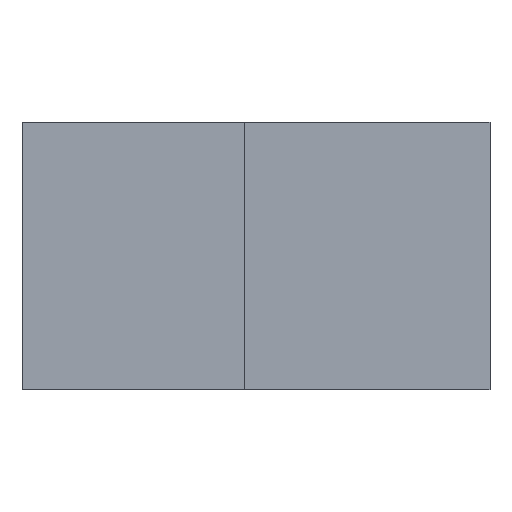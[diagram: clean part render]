
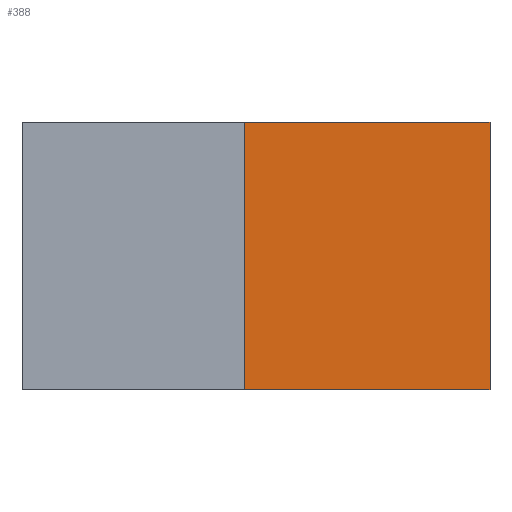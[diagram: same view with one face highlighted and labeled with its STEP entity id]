
A CAD part, left-side view. The second image highlights one B-rep face of the part: STEP entity #388.
In plain terms, the highlighted planar face has unit normal (-1, 0, 0).
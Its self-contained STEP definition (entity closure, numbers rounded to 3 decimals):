
#388 = ADVANCED_FACE('',(#389),#403,.F.);
#389 = FACE_BOUND('',#390,.F.);
#390 = EDGE_LOOP('',(#391,#426,#454,#482));
#391 = ORIENTED_EDGE('',*,*,#392,.F.);
#392 = EDGE_CURVE('',#393,#395,#397,.T.);
#393 = VERTEX_POINT('',#394);
#394 = CARTESIAN_POINT('',(-0.75,-0.82,0.));
#395 = VERTEX_POINT('',#396);
#396 = CARTESIAN_POINT('',(-0.75,-0.82,0.6));
#397 = SURFACE_CURVE('',#398,(#402,#414),.PCURVE_S1.);
#398 = LINE('',#399,#400);
#399 = CARTESIAN_POINT('',(-0.75,-0.82,0.));
#400 = VECTOR('',#401,1.);
#401 = DIRECTION('',(0.,0.,1.));
#402 = PCURVE('',#403,#408);
#403 = PLANE('',#404);
#404 = AXIS2_PLACEMENT_3D('',#405,#406,#407);
#405 = CARTESIAN_POINT('',(-0.75,-0.82,0.));
#406 = DIRECTION('',(1.,0.,0.));
#407 = DIRECTION('',(0.,0.,1.));
#408 = DEFINITIONAL_REPRESENTATION('',(#409),#413);
#409 = LINE('',#410,#411);
#410 = CARTESIAN_POINT('',(0.,0.));
#411 = VECTOR('',#412,1.);
#412 = DIRECTION('',(1.,0.));
#413 = ( GEOMETRIC_REPRESENTATION_CONTEXT(2)
PARAMETRIC_REPRESENTATION_CONTEXT() REPRESENTATION_CONTEXT('2D SPACE',''
  ) );
#414 = PCURVE('',#415,#420);
#415 = PLANE('',#416);
#416 = AXIS2_PLACEMENT_3D('',#417,#418,#419);
#417 = CARTESIAN_POINT('',(-0.75,-0.82,0.));
#418 = DIRECTION('',(0.,1.,0.));
#419 = DIRECTION('',(0.,0.,1.));
#420 = DEFINITIONAL_REPRESENTATION('',(#421),#425);
#421 = LINE('',#422,#423);
#422 = CARTESIAN_POINT('',(0.,0.));
#423 = VECTOR('',#424,1.);
#424 = DIRECTION('',(1.,0.));
#425 = ( GEOMETRIC_REPRESENTATION_CONTEXT(2)
PARAMETRIC_REPRESENTATION_CONTEXT() REPRESENTATION_CONTEXT('2D SPACE',''
  ) );
#426 = ORIENTED_EDGE('',*,*,#427,.T.);
#427 = EDGE_CURVE('',#393,#428,#430,.T.);
#428 = VERTEX_POINT('',#429);
#429 = CARTESIAN_POINT('',(-0.75,-0.27,0.));
#430 = SURFACE_CURVE('',#431,(#435,#442),.PCURVE_S1.);
#431 = LINE('',#432,#433);
#432 = CARTESIAN_POINT('',(-0.75,-0.82,0.));
#433 = VECTOR('',#434,1.);
#434 = DIRECTION('',(0.,1.,0.));
#435 = PCURVE('',#403,#436);
#436 = DEFINITIONAL_REPRESENTATION('',(#437),#441);
#437 = LINE('',#438,#439);
#438 = CARTESIAN_POINT('',(0.,0.));
#439 = VECTOR('',#440,1.);
#440 = DIRECTION('',(0.,-1.));
#441 = ( GEOMETRIC_REPRESENTATION_CONTEXT(2)
PARAMETRIC_REPRESENTATION_CONTEXT() REPRESENTATION_CONTEXT('2D SPACE',''
  ) );
#442 = PCURVE('',#443,#448);
#443 = PLANE('',#444);
#444 = AXIS2_PLACEMENT_3D('',#445,#446,#447);
#445 = CARTESIAN_POINT('',(-0.75,-0.82,0.));
#446 = DIRECTION('',(0.,0.,1.));
#447 = DIRECTION('',(1.,0.,0.));
#448 = DEFINITIONAL_REPRESENTATION('',(#449),#453);
#449 = LINE('',#450,#451);
#450 = CARTESIAN_POINT('',(0.,0.));
#451 = VECTOR('',#452,1.);
#452 = DIRECTION('',(0.,1.));
#453 = ( GEOMETRIC_REPRESENTATION_CONTEXT(2)
PARAMETRIC_REPRESENTATION_CONTEXT() REPRESENTATION_CONTEXT('2D SPACE',''
  ) );
#454 = ORIENTED_EDGE('',*,*,#455,.T.);
#455 = EDGE_CURVE('',#428,#456,#458,.T.);
#456 = VERTEX_POINT('',#457);
#457 = CARTESIAN_POINT('',(-0.75,-0.27,0.6));
#458 = SURFACE_CURVE('',#459,(#463,#470),.PCURVE_S1.);
#459 = LINE('',#460,#461);
#460 = CARTESIAN_POINT('',(-0.75,-0.27,0.));
#461 = VECTOR('',#462,1.);
#462 = DIRECTION('',(0.,0.,1.));
#463 = PCURVE('',#403,#464);
#464 = DEFINITIONAL_REPRESENTATION('',(#465),#469);
#465 = LINE('',#466,#467);
#466 = CARTESIAN_POINT('',(0.,-0.55));
#467 = VECTOR('',#468,1.);
#468 = DIRECTION('',(1.,0.));
#469 = ( GEOMETRIC_REPRESENTATION_CONTEXT(2)
PARAMETRIC_REPRESENTATION_CONTEXT() REPRESENTATION_CONTEXT('2D SPACE',''
  ) );
#470 = PCURVE('',#471,#476);
#471 = PLANE('',#472);
#472 = AXIS2_PLACEMENT_3D('',#473,#474,#475);
#473 = CARTESIAN_POINT('',(-0.75,-0.27,0.));
#474 = DIRECTION('',(0.,1.,0.));
#475 = DIRECTION('',(0.,0.,1.));
#476 = DEFINITIONAL_REPRESENTATION('',(#477),#481);
#477 = LINE('',#478,#479);
#478 = CARTESIAN_POINT('',(0.,0.));
#479 = VECTOR('',#480,1.);
#480 = DIRECTION('',(1.,0.));
#481 = ( GEOMETRIC_REPRESENTATION_CONTEXT(2)
PARAMETRIC_REPRESENTATION_CONTEXT() REPRESENTATION_CONTEXT('2D SPACE',''
  ) );
#482 = ORIENTED_EDGE('',*,*,#483,.F.);
#483 = EDGE_CURVE('',#395,#456,#484,.T.);
#484 = SURFACE_CURVE('',#485,(#489,#496),.PCURVE_S1.);
#485 = LINE('',#486,#487);
#486 = CARTESIAN_POINT('',(-0.75,-0.82,0.6));
#487 = VECTOR('',#488,1.);
#488 = DIRECTION('',(0.,1.,0.));
#489 = PCURVE('',#403,#490);
#490 = DEFINITIONAL_REPRESENTATION('',(#491),#495);
#491 = LINE('',#492,#493);
#492 = CARTESIAN_POINT('',(0.6,0.));
#493 = VECTOR('',#494,1.);
#494 = DIRECTION('',(0.,-1.));
#495 = ( GEOMETRIC_REPRESENTATION_CONTEXT(2)
PARAMETRIC_REPRESENTATION_CONTEXT() REPRESENTATION_CONTEXT('2D SPACE',''
  ) );
#496 = PCURVE('',#497,#502);
#497 = PLANE('',#498);
#498 = AXIS2_PLACEMENT_3D('',#499,#500,#501);
#499 = CARTESIAN_POINT('',(-0.75,-0.82,0.6));
#500 = DIRECTION('',(0.,0.,1.));
#501 = DIRECTION('',(1.,0.,0.));
#502 = DEFINITIONAL_REPRESENTATION('',(#503),#507);
#503 = LINE('',#504,#505);
#504 = CARTESIAN_POINT('',(0.,0.));
#505 = VECTOR('',#506,1.);
#506 = DIRECTION('',(0.,1.));
#507 = ( GEOMETRIC_REPRESENTATION_CONTEXT(2)
PARAMETRIC_REPRESENTATION_CONTEXT() REPRESENTATION_CONTEXT('2D SPACE',''
  ) );
